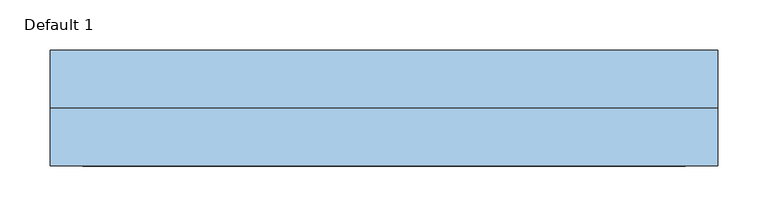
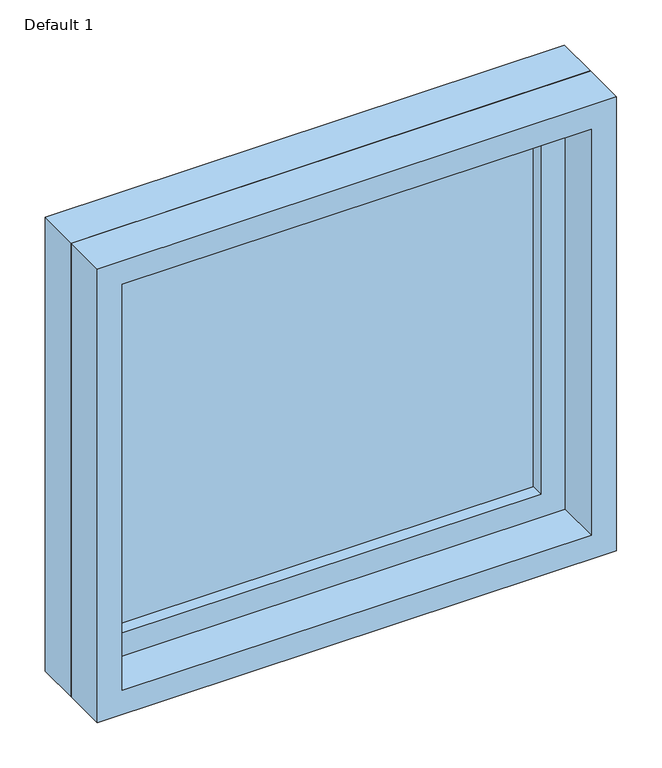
"""IFC4 building model written with IfcOpenShell, lengths in millimetres: window geometry, Planitar-Fixed : Default 1."""

from ifc_helpers import new_model, si_unit, frame, origin, place, context, project, spatial, polyline, outline, extrude, source, transform, mapped, element, save


def default_1_8e04e30e(model_context):
    return source(origin(), model_context, "Body", "SweptSolid", [
        extrude(outline(polyline([(1505.0, -311.2), (933.4, -311.2), (933.4, 311.2), (1505.0, 311.2), (1505.0, -311.2)]), holes=[polyline([(1461.0, -267.2), (1461.0, 267.2), (977.4, 267.2), (977.4, -267.2), (1461.0, -267.2)])]), frame((0.0, 13.45, 0.0), z_axis=(0.0, 1.0, 0.0), x_axis=(0.0, 0.0, 1.0)), (0.0, 0.0, 1.0), 44.0),
        extrude(outline(polyline([(1524.0, -330.2), (914.4, -330.2), (914.4, 330.2), (1524.0, 330.2), (1524.0, -330.2)]), holes=[polyline([(1505.0, -311.2), (1505.0, 311.2), (933.4, 311.2), (933.4, -311.2), (1505.0, -311.2)])]), frame((0.0, 13.45, 0.0), z_axis=(0.0, 1.0, 0.0), x_axis=(0.0, 0.0, 1.0)), (0.0, 0.0, 1.0), 56.7),
        extrude(outline(polyline([(1524.0, -330.2), (914.4, -330.2), (914.4, 330.2), (1524.0, 330.2), (1524.0, -330.2)]), holes=[polyline([(1492.0, -298.2), (1492.0, 298.2), (946.4, 298.2), (946.4, -298.2), (1492.0, -298.2)])]), frame((0.0, -44.15, 0.0), z_axis=(0.0, 1.0, 0.0), x_axis=(0.0, 0.0, 1.0)), (0.0, 0.0, 1.0), 57.6),
        extrude(outline(polyline([(-267.2, 41.45), (267.2, 41.45), (267.2, 29.45), (-267.2, 29.45), (-267.2, 41.45)])), frame((0.0, 0.0, 977.4), z_axis=(0.0, 0.0, 1.0), x_axis=(1.0, 0.0, 0.0)), (0.0, 0.0, 1.0), 483.6),
    ])


if __name__ == "__main__":
    model = new_model("IFC4")
    model_context = context("Model", 3, world=origin())
    ifc_project = project(units=[si_unit("LENGTHUNIT", "METRE", prefix="MILLI")], contexts=[model_context])
    site = spatial("IfcSite", under=ifc_project)
    building = spatial("IfcBuilding", under=site)
    placement = place(None, origin())
    default_1_shape = default_1_8e04e30e(model_context)
    element("IfcWindow", 1, ObjectType="Planitar-Fixed : Default 1", at=placement, inside=building, context=model_context, shape_type="MappedRepresentation", body=[
        mapped(default_1_shape, transform((0.0, 0.0, 0.0), x_axis=(1.0, 0.0, 0.0), y_axis=(0.0, 1.0, 0.0), z_axis=(0.0, 0.0, 1.0))),
    ])
    save(model, "model.ifc")
